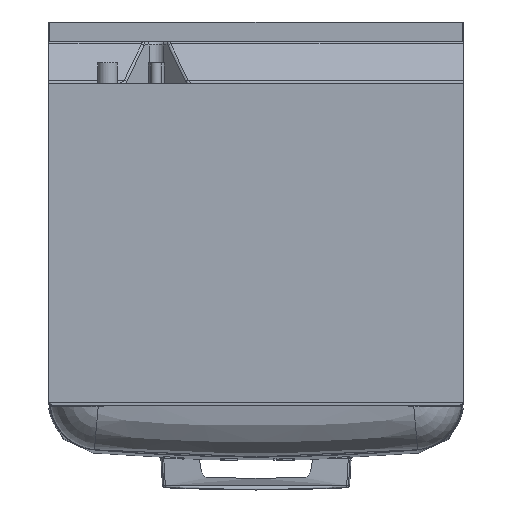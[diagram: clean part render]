
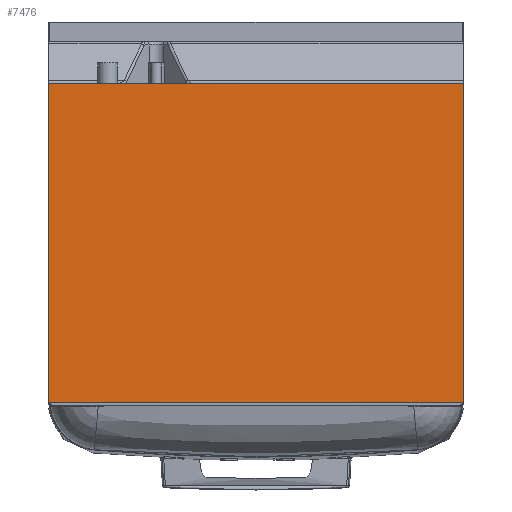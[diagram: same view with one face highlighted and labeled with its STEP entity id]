
A CAD part, front view. The second image highlights one B-rep face of the part: STEP entity #7476.
In plain terms, the highlighted planar face has unit normal (0, -1, 0).
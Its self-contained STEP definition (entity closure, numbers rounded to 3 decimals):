
#354 = CARTESIAN_POINT ( 'NONE',  ( -299., 0., -2.36 ) ) ;
#563 = VECTOR ( 'NONE', #11853, 1000. ) ;
#1394 = CARTESIAN_POINT ( 'NONE',  ( -299., 0., 457.756 ) ) ;
#1459 = CARTESIAN_POINT ( 'NONE',  ( 299., 0., -2.36 ) ) ;
#1582 = PLANE ( 'NONE',  #6410 ) ;
#1804 = LINE ( 'NONE', #11064, #2753 ) ;
#2274 = EDGE_CURVE ( 'NONE', #2750, #6732, #7668, .T. ) ;
#2708 = DIRECTION ( 'NONE',  ( 0., 0., -1. ) ) ;
#2750 = VERTEX_POINT ( 'NONE', #11551 ) ;
#2753 = VECTOR ( 'NONE', #5879, 1000. ) ;
#2807 = VECTOR ( 'NONE', #12769, 1000. ) ;
#2870 = ORIENTED_EDGE ( 'NONE', *, *, #10359, .T. ) ;
#2986 = ORIENTED_EDGE ( 'NONE', *, *, #6372, .T. ) ;
#3302 = LINE ( 'NONE', #354, #5538 ) ;
#3751 = VERTEX_POINT ( 'NONE', #1394 ) ;
#4634 = CARTESIAN_POINT ( 'NONE',  ( 299., 0., 457.756 ) ) ;
#4698 = CARTESIAN_POINT ( 'NONE',  ( 299., 0., 457.756 ) ) ;
#5254 = EDGE_CURVE ( 'NONE', #3751, #11194, #1804, .T. ) ;
#5538 = VECTOR ( 'NONE', #7446, 1000. ) ;
#5651 = DIRECTION ( 'NONE',  ( 0., -1., 0. ) ) ;
#5879 = DIRECTION ( 'NONE',  ( 0., 0., -1. ) ) ;
#6372 = EDGE_CURVE ( 'NONE', #11194, #2750, #3302, .T. ) ;
#6410 = AXIS2_PLACEMENT_3D ( 'NONE', #10061, #5651, #2708 ) ;
#6732 = VERTEX_POINT ( 'NONE', #4634 ) ;
#7446 = DIRECTION ( 'NONE',  ( 1., 0., 0. ) ) ;
#7476 = ADVANCED_FACE ( 'NONE', ( #12158 ), #1582, .T. ) ;
#7668 = LINE ( 'NONE', #1459, #563 ) ;
#8626 = ORIENTED_EDGE ( 'NONE', *, *, #5254, .T. ) ;
#8771 = LINE ( 'NONE', #4698, #2807 ) ;
#8955 = EDGE_LOOP ( 'NONE', ( #2870, #8626, #2986, #9785 ) ) ;
#9785 = ORIENTED_EDGE ( 'NONE', *, *, #2274, .T. ) ;
#10061 = CARTESIAN_POINT ( 'NONE',  ( 0., 0., 0. ) ) ;
#10359 = EDGE_CURVE ( 'NONE', #6732, #3751, #8771, .T. ) ;
#11064 = CARTESIAN_POINT ( 'NONE',  ( -299., 0., 457.756 ) ) ;
#11194 = VERTEX_POINT ( 'NONE', #12369 ) ;
#11551 = CARTESIAN_POINT ( 'NONE',  ( 299., 0., -2.36 ) ) ;
#11853 = DIRECTION ( 'NONE',  ( 0., 0., 1. ) ) ;
#12158 = FACE_OUTER_BOUND ( 'NONE', #8955, .T. ) ;
#12369 = CARTESIAN_POINT ( 'NONE',  ( -299., 0., -2.36 ) ) ;
#12769 = DIRECTION ( 'NONE',  ( -1., 0., 0. ) ) ;
